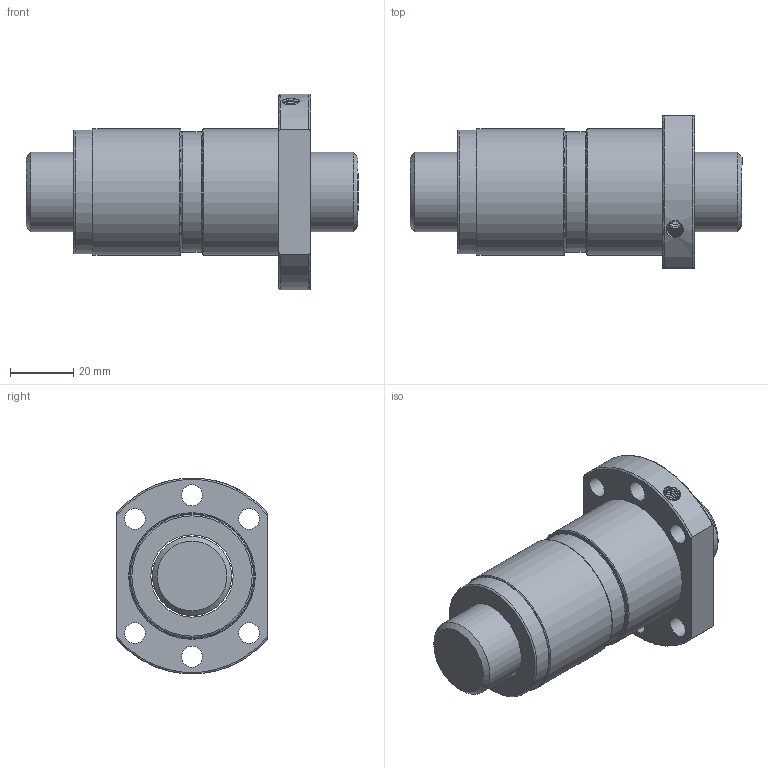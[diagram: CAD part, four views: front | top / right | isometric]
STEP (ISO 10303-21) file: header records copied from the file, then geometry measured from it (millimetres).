
FILE_DESCRIPTION(/* description */ ('Unknown','CAx-IF Rec.Pracs.---Representation and Presentation of Product Manufacturing Information (PMI)---4.0---2014-10-13','CAx-IF Rec.Pracs.---3D Tessellated Geometry---0.4---2014-09-14','2;1'),/* implementation_level */ '2;1');
FILE_NAME(/* name */ 'DFS02505',/* time_stamp */ '2020-12-07T10:26:28+08:00',/* author */ ('Unknown'),/* organization */ ('Unknown'),/* preprocessor_version */ 'ST-DEVELOPER v16.7',/* originating_system */ 'Solid Edge',/* authorisation */ 'Unknown');
FILE_SCHEMA (('AP242_MANAGED_MODEL_BASED_3D_ENGINEERING_MIM_LF { 1 0 10303 442 1 1 4 }'));
Length unit declared in the file: millimetre
Products named in the file (1): DFS02505
Bounding box: 104.85 x 48 x 61.8 mm (x, y, z)
Volume: 115394.7 mm3; surface area: 32356.8 mm2
Topology: 2 solids, 2 shells, 49 faces, 112 edges, 70 vertices
Faces by surface type: cylinder 20, plane 13, torus 11, cone 3, bspline 2
Full cylindrical faces by diameter (mm): 4 x1, 4.917 x1, 6.6 x6, 25 x1, 26 x1, 38 x1, 39 x2, 40 x3
Entity records: 3440 total; most frequent: CARTESIAN_POINT 2358, DIRECTION 212, ORIENTED_EDGE 166, AXIS2_PLACEMENT_3D 102, EDGE_LOOP 96, FACE_BOUND 96, EDGE_CURVE 83, VERTEX_POINT 67
